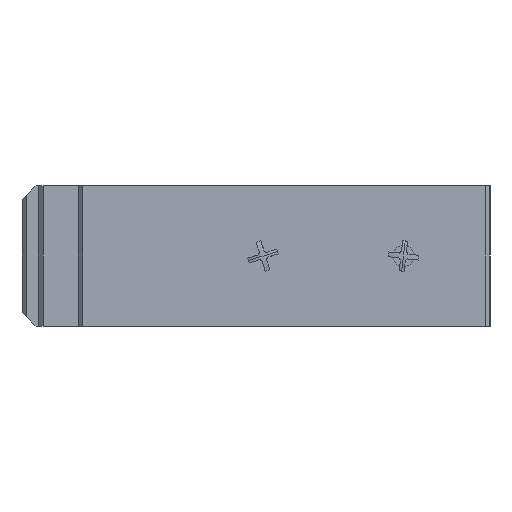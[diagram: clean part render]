
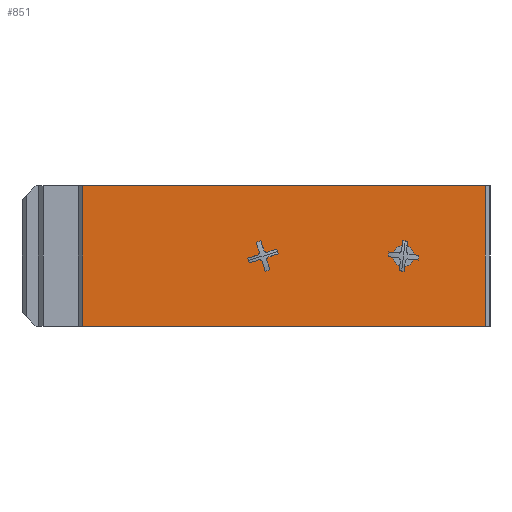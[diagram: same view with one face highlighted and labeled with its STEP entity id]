
A CAD part, left-side view. The second image highlights one B-rep face of the part: STEP entity #851.
In plain terms, the highlighted planar face has unit normal (-1, 0, 0).
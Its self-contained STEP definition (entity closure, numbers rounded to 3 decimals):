
#346=CARTESIAN_POINT(' ',(-145.,-41.5,-2.25));
#347=VERTEX_POINT(' ',#346);
#421=CARTESIAN_POINT(' ',(-145.,-41.5,2.25));
#422=VERTEX_POINT(' ',#421);
#436=CARTESIAN_POINT(' ',(-145.,-41.5,0.));
#441=DIRECTION(' ',(-1.,-0.,0.));
#446=DIRECTION(' ',(0.,0.,1.));
#451=AXIS2_PLACEMENT_3D(' ',#436,#441,#446);
#456=CIRCLE('',#451,2.25);
#461=EDGE_CURVE(' ',#422,#347,#456,.T.);
#551=CARTESIAN_POINT(' ',(-145.,-41.5,0.));
#556=DIRECTION(' ',(-1.,0.,0.));
#561=DIRECTION(' ',(0.,0.,-1.));
#566=AXIS2_PLACEMENT_3D(' ',#551,#556,#561);
#571=CIRCLE('',#566,2.25);
#576=EDGE_CURVE(' ',#347,#422,#571,.T.);
#656=DIRECTION(' ',(-1.,0.,0.));
#661=CARTESIAN_POINT(' ',(-145.,-59.,-15.));
#666=DIRECTION(' ',(0.,0.,1.));
#671=AXIS2_PLACEMENT_3D(' ',#661,#656,#666);
#676=PLANE('NONE',#671);
#681=CARTESIAN_POINT(' ',(-145.,27.,15.));
#686=DIRECTION(' ',(0.,-1.,0.));
#691=VECTOR(' ',#686,1.);
#696=LINE('',#681,#691);
#701=CARTESIAN_POINT(' ',(-145.,27.,15.));
#702=VERTEX_POINT(' ',#701);
#706=CARTESIAN_POINT(' ',(-145.,-59.,15.));
#707=VERTEX_POINT(' ',#706);
#711=EDGE_CURVE(' ',#702,#707,#696,.T.);
#716=ORIENTED_EDGE(' ',*,*,#711,.F.);
#721=CARTESIAN_POINT(' ',(-145.,27.,15.));
#726=DIRECTION(' ',(0.,0.,-1.));
#731=VECTOR(' ',#726,1.);
#736=LINE('',#721,#731);
#741=CARTESIAN_POINT(' ',(-145.,27.,-15.));
#742=VERTEX_POINT(' ',#741);
#746=EDGE_CURVE(' ',#702,#742,#736,.T.);
#751=ORIENTED_EDGE(' ',*,*,#746,.T.);
#756=CARTESIAN_POINT(' ',(-145.,27.,-15.));
#761=DIRECTION(' ',(0.,-1.,0.));
#766=VECTOR(' ',#761,1.);
#771=LINE('',#756,#766);
#776=CARTESIAN_POINT(' ',(-145.,-59.,-15.));
#777=VERTEX_POINT(' ',#776);
#781=EDGE_CURVE(' ',#742,#777,#771,.T.);
#786=ORIENTED_EDGE(' ',*,*,#781,.T.);
#791=CARTESIAN_POINT(' ',(-145.,-59.,-15.));
#796=DIRECTION(' ',(0.,0.,1.));
#801=VECTOR(' ',#796,1.);
#806=LINE('',#791,#801);
#811=EDGE_CURVE(' ',#777,#707,#806,.T.);
#816=ORIENTED_EDGE(' ',*,*,#811,.T.);
#821=EDGE_LOOP(' ',(#716,#751,#786,#816));
#826=FACE_OUTER_BOUND(' ',#821,.T.);
#831=ORIENTED_EDGE(' ',*,*,#461,.F.);
#836=ORIENTED_EDGE(' ',*,*,#576,.F.);
#841=EDGE_LOOP(' ',(#831,#836));
#846=FACE_BOUND(' ',#841,.T.);
#851=ADVANCED_FACE('NONE',(#826,#846),#676,.T.);
